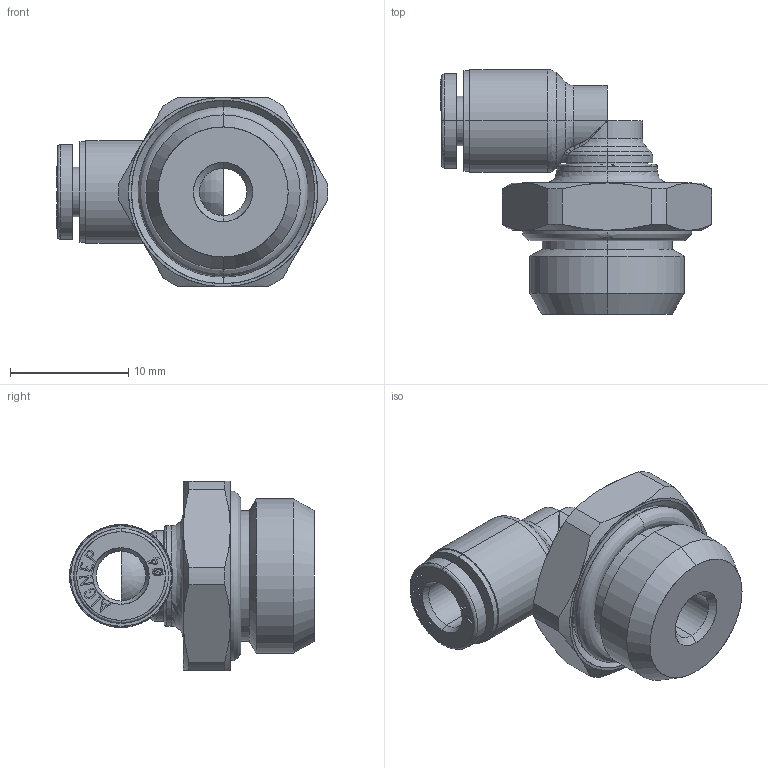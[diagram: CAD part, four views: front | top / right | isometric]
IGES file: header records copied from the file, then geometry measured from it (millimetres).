
Start section: SolidWorks IGES file using analytic representation for surfaces
Global section: file name: C:\Users\cad06\Desktop\Nuova cartella\5611500007A.IGS; native system: SolidWorks 2016; preprocessor: SolidWorks 2016; author: cad06; date: 160511.165221; units: millimetre
Bounding box: 22.95 x 20.7 x 16 mm (x, y, z)
Surface area: 1857.4 mm2 (no closed solid volume)
Topology: 0 solids, 0 shells, 263 faces, 2262 edges, 2259 vertices
Faces by surface type: bspline 202, revolution 61
